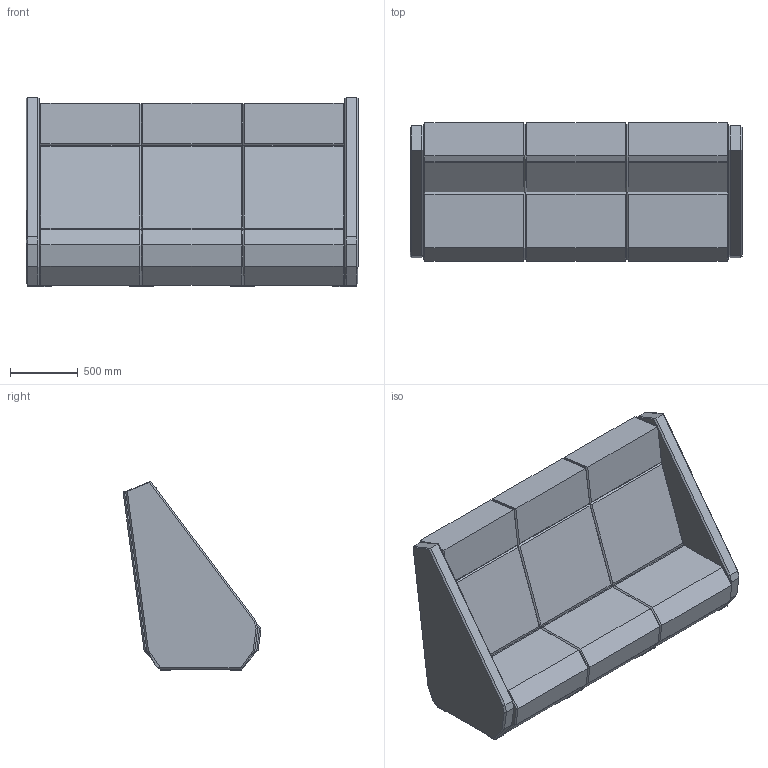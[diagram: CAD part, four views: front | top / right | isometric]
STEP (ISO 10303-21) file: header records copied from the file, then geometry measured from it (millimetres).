
FILE_DESCRIPTION(/* description */ (''),/* implementation_level */ '2;1');
FILE_NAME(/* name */ 'KM3-BR~1',/* time_stamp */ '2015-10-05T16:34:12+02:00',/* author */ (''),/* organization */ (''),/* preprocessor_version */ 'ST-DEVELOPER v15',/* originating_system */ '',/* authorisation */ '');
FILE_SCHEMA (('CONFIG_CONTROL_DESIGN'));
Length unit declared in the file: millimetre
Products named in the file (1): Document
Bounding box: 2450 x 1017.73 x 1397.94 mm (x, y, z)
Volume: 1439247754.8 mm3; surface area: 17627336.4 mm2
Topology: 15 solids, 19 shells, 327 faces, 804 edges, 464 vertices
Faces by surface type: bspline 273, plane 54
Entity records: 11843 total; most frequent: CARTESIAN_POINT 7728, ORIENTED_EDGE 1474, EDGE_CURVE 753, VERTEX_POINT 460, ADVANCED_FACE 327, FACE_OUTER_BOUND 327, EDGE_LOOP 327, B_SPLINE_CURVE_WITH_KNOTS 110
